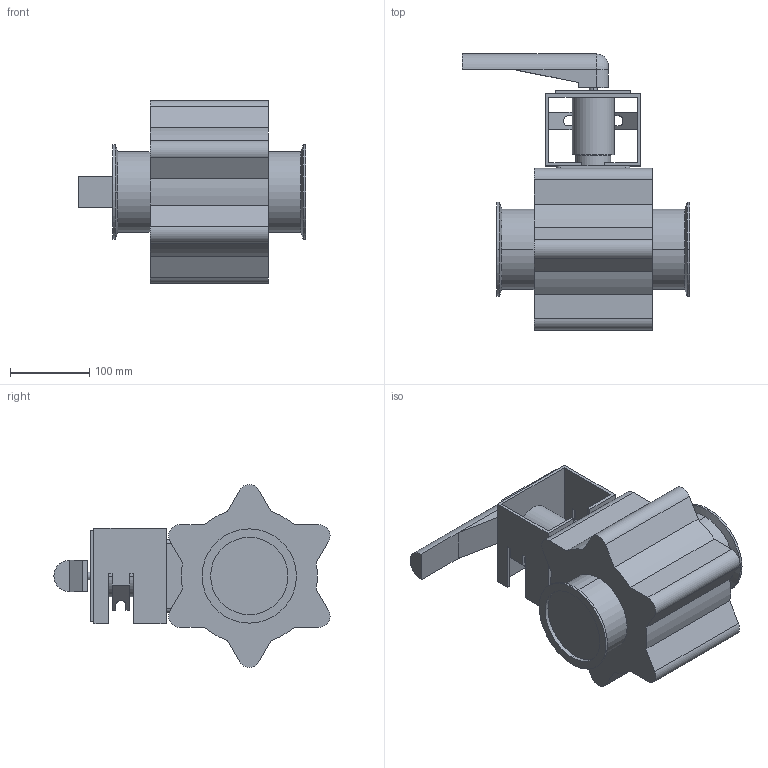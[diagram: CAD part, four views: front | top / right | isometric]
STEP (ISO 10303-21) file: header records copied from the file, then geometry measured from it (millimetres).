
FILE_DESCRIPTION(('Creo Elements/Direct Modeling STEP Export'),'2;1');
FILE_NAME('BLV1-4T-HL-12CL.stp','2019-05-10T 8:30:30',(''),(''),'Creo Elements/Direct Modeling STEP processor for AP214 (Solid Model)','Creo Elements/Direct Modeling 19.0F 14-Feb-2017 (C) Parametric Technology GmbH','');
FILE_SCHEMA(('AUTOMOTIVE_DESIGN { 1 0 10303 214 1 1 1 1 }'));
Length unit declared in the file: millimetre
Products named in the file (2): BLV1-4T-HL-12CL
Assembly tree (1 placements, depth 2):
  BLV1-4T-HL-12CL
    BLV1-4T-HL-12CL
Bounding box: 286.5 x 348.4 x 231 mm (x, y, z)
Volume: 5801052.7 mm3; surface area: 336287.8 mm2
Topology: 1 solids, 1 shells, 131 faces, 358 edges, 236 vertices
Faces by surface type: plane 82, cylinder 44, cone 4, torus 1
Entity records: 4009 total; most frequent: CARTESIAN_POINT 727, ORIENTED_EDGE 716, DIRECTION 632, EDGE_CURVE 358, VECTOR 246, LINE 246, VERTEX_POINT 236, AXIS2_PLACEMENT_3D 193
